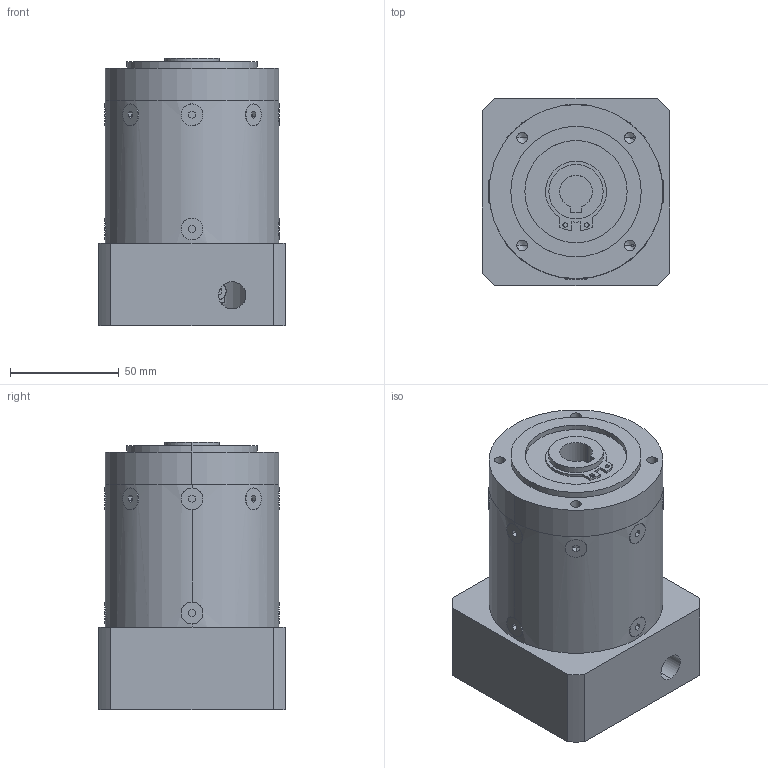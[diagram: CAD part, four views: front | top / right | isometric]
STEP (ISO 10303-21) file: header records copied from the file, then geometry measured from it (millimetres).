
FILE_DESCRIPTION (( 'STEP AP203' ), '1' );
FILE_NAME ('PBE80-L2-14-73-98.4.STEP', '2022-07-23T08:30:09', ( 'Windows User' ), ( 'P R C' ), 'SwSTEP 2.0', 'SolidWorks 2016', '' );
FILE_SCHEMA (( 'CONFIG_CONTROL_DESIGN' ));
Length unit declared in the file: millimetre
Products named in the file (7): 囀鞠褒蹟佪-M5℅20; PBE80 蟀諉啣-73-M6-98.4; 粣創-6006 30x55x13; PBE80-L2-14-73-98.4; PBE80 奻屳唳; PBE80 薊粣ん-14_D7-19 梓袧; PBE80 内齿圈-孔输出-B版_二级内齿圈
Assembly tree (6 placements, depth 2):
  PBE80-L2-14-73-98.4
    PBE80 奻屳唳
    PBE80 薊粣ん-14_D7-19 梓袧
    PBE80 内齿圈-孔输出-B版_二级内齿圈
    囀鞠褒蹟佪-M5℅20
    PBE80 蟀諉啣-73-M6-98.4
    粣創-6006 30x55x13
Bounding box: 86 x 86 x 123 mm (x, y, z)
Volume: 597026 mm3; surface area: 117173.3 mm2
Topology: 6 solids, 6 shells, 1106 faces, 2974 edges, 1955 vertices
Faces by surface type: plane 591, bspline 307, cylinder 180, cone 28
Entity records: 47638 total; most frequent: CARTESIAN_POINT 21261, ORIENTED_EDGE 5900, DIRECTION 4378, EDGE_CURVE 2950, VERTEX_POINT 1955, LINE 1542, VECTOR 1542, AXIS2_PLACEMENT_3D 1418
